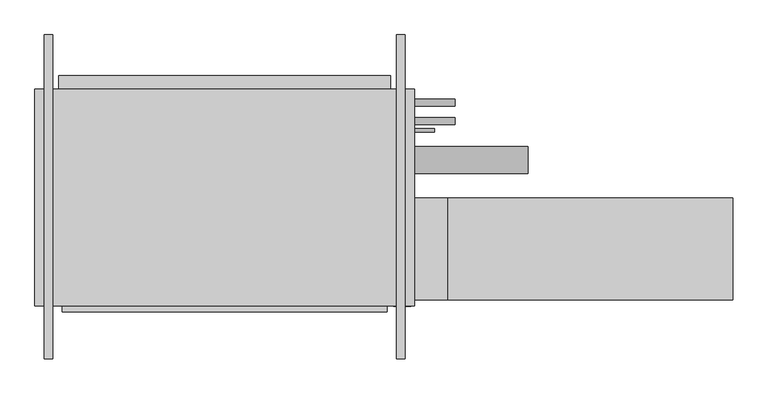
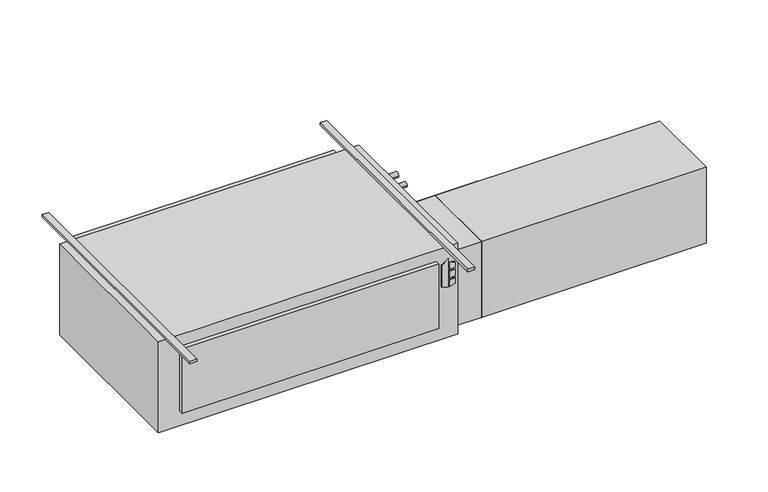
"""IFC4 building model written with IfcOpenShell, lengths in millimetres: proxy geometry."""

from ifc_helpers import new_model, si_unit, point, frame, frame_2d, origin, origin_with_axes, place, context, project, spatial, polyline, circle_curve, trimmed, segment, composite_curve, outline, extrude, source, transform, mapped, element, save


def mechanical_equipment_eba861e0(model_context):
    return source(origin(), model_context, "Body", "SweptSolid", [
        extrude(outline(polyline([(-193.2519297, 785.8868862), (-203.2, 818.0602728), (-61.0290756, 818.0602728), (-84.0510817, 785.8868862), (-193.2519297, 785.8868862)])), frame((0.0, -647.7, 0.0), z_axis=(0.0, 1.0, 0.0), x_axis=(0.0, 0.0, 1.0)), (0.0, 0.0, 1.0), 3.175),
        extrude(outline(polyline([(-114.2526443, 824.8186058), (-117.4550368, 850.9), (-88.2261958, 850.9), (-80.1617807, 824.8186058), (-114.2526443, 824.8186058)])), frame((0.0, -647.7, 0.0), z_axis=(0.0, 1.0, 0.0), x_axis=(0.0, 0.0, 1.0)), (0.0, 0.0, 1.0), 3.175),
        extrude(outline(polyline([(-166.1161712, 850.9), (-169.7816721, 824.8186058), (-203.2, 824.8186058), (-194.5657628, 850.9), (-166.1161712, 850.9)])), frame((0.0, -647.7, 0.0), z_axis=(0.0, 1.0, 0.0), x_axis=(0.0, 0.0, 1.0)), (0.0, 0.0, 1.0), 3.175),
        extrude(outline(polyline([(-126.8010097, 850.9), (-124.5191834, 824.8186058), (-160.4567319, 824.8186058), (-157.7154669, 850.9), (-126.8010097, 850.9)])), frame((0.0, -647.7, 0.0), z_axis=(0.0, 1.0, 0.0), x_axis=(0.0, 0.0, 1.0)), (0.0, 0.0, 1.0), 3.175),
        extrude(outline(polyline([(762.0, -666.877), (-457.2, -666.877), (-457.2, -644.525), (762.0, -644.525), (762.0, -666.877)])), frame((0.0, 0.0, -381.0), z_axis=(0.0, 0.0, 1.0), x_axis=(1.0, 0.0, 0.0)), (0.0, 0.0, 1.0), 323.85),
        extrude(outline(polyline([(2057.4, -241.3), (2057.4, -622.3), (990.6, -622.3), (990.6, -241.3), (2057.4, -241.3)])), frame((0.0, 0.0, -431.8), z_axis=(0.0, 0.0, 1.0), x_axis=(1.0, 0.0, 0.0)), (0.0, 0.0, 1.0), 381.0),
        extrude(outline(polyline([(990.6, -241.3), (990.6, -622.3), (863.6, -622.3), (863.6, -241.3), (990.6, -241.3)])), frame((0.0, 0.0, -431.8), z_axis=(0.0, 0.0, 1.0), x_axis=(1.0, 0.0, 0.0)), (0.0, 0.0, 1.0), 381.0),
        extrude(outline(composite_curve([segment(trimmed(circle_curve(frame_2d((117.475, -171.45)), 12.7), [point((130.175, -171.45))], [point((104.775, -171.45))], False, "CARTESIAN"), True, "CONTINUOUS"), segment(trimmed(circle_curve(frame_2d((117.475, -171.45)), 12.7), [point((104.775, -171.45))], [point((130.175, -171.45))], False, "CARTESIAN"), True, "CONTINUOUS")], self_intersect=False)), frame((863.6, 0.0, 0.0), z_axis=(1.0, 0.0, 0.0), x_axis=(0.0, 1.0, 0.0)), (0.0, 0.0, 1.0), 152.4),
        extrude(outline(composite_curve([segment(trimmed(circle_curve(frame_2d((47.625, -177.8)), 12.7), [point((60.325, -177.8))], [point((34.925, -177.8))], False, "CARTESIAN"), True, "CONTINUOUS"), segment(trimmed(circle_curve(frame_2d((47.625, -177.8)), 12.7), [point((34.925, -177.8))], [point((60.325, -177.8))], False, "CARTESIAN"), True, "CONTINUOUS")], self_intersect=False)), frame((863.6, 0.0, 0.0), z_axis=(1.0, 0.0, 0.0), x_axis=(0.0, 1.0, 0.0)), (0.0, 0.0, 1.0), 152.4),
        extrude(outline(composite_curve([segment(trimmed(circle_curve(frame_2d((-98.4896516, -228.6360165)), 50.8), [point((-47.6896516, -228.6360165))], [point((-149.2896516, -228.6360165))], False, "CARTESIAN"), True, "CONTINUOUS"), segment(trimmed(circle_curve(frame_2d((-98.4896516, -228.6360165)), 50.8), [point((-149.2896516, -228.6360165))], [point((-47.6896516, -228.6360165))], False, "CARTESIAN"), True, "CONTINUOUS")], self_intersect=False)), frame((863.6, 0.0, 0.0), z_axis=(1.0, 0.0, 0.0), x_axis=(0.0, 1.0, 0.0)), (0.0, 0.0, 1.0), 425.45),
        extrude(outline(composite_curve([segment(trimmed(circle_curve(frame_2d((12.7, -409.575)), 6.35), [point((19.05, -409.575))], [point((6.35, -409.575))], False, "CARTESIAN"), True, "CONTINUOUS"), segment(trimmed(circle_curve(frame_2d((12.7, -409.575)), 6.35), [point((6.35, -409.575))], [point((19.05, -409.575))], False, "CARTESIAN"), True, "CONTINUOUS")], self_intersect=False)), frame((863.6, 0.0, 0.0), z_axis=(1.0, 0.0, 0.0), x_axis=(0.0, 1.0, 0.0)), (0.0, 0.0, 1.0), 76.2),
        extrude(outline(polyline([(863.6, 168.275), (863.6, -644.525), (-558.8, -644.525), (-558.8, 168.275), (863.6, 168.275)])), frame((0.0, 0.0, -457.2), z_axis=(0.0, 0.0, 1.0), x_axis=(1.0, 0.0, 0.0)), (0.0, 0.0, 1.0), 457.2),
        extrude(outline(polyline([(-469.9, 219.075), (774.7, 219.075), (774.7, 168.275), (-469.9, 168.275), (-469.9, 219.075)])), frame((0.0, 0.0, -381.0), z_axis=(0.0, 0.0, 1.0), x_axis=(1.0, 0.0, 0.0)), (0.0, 0.0, 1.0), 355.6),
        extrude(outline(polyline([(-492.125, 371.475), (-492.125, -844.677), (-523.875, -844.677), (-523.875, 371.475), (-492.125, 371.475)])), origin_with_axes(), (0.0, 0.0, 1.0), 12.7),
        extrude(outline(polyline([(828.675, 371.475), (828.675, -844.677), (796.925, -844.677), (796.925, 371.475), (828.675, 371.475)])), origin_with_axes(), (0.0, 0.0, 1.0), 12.7),
    ])


if __name__ == "__main__":
    model = new_model("IFC4")
    model_context = context("Model", 3, world=origin())
    ifc_project = project(units=[si_unit("LENGTHUNIT", "METRE", prefix="MILLI")], contexts=[model_context])
    site = spatial("IfcSite", under=ifc_project)
    building = spatial("IfcBuilding", under=site)
    placement = place(None, origin())
    mechanical_equipment_shape = mechanical_equipment_eba861e0(model_context)
    element("IfcBuildingElementProxy", 1, Name="High_Capacity_Horizontal_Cabinet_Fan_Coil_Unit_-_HTY_-_IEC_-_2-Pipe_RH Side_2022 : Size 20 - 115v/60Hz/1Ph - 4/0 Coil - 4\" AirIn", ObjectType="High_Capacity_Horizontal_Cabinet_Fan_Coil_Unit_-_HTY_-_IEC_-_2-Pipe_RH Side_2022 : Size 20 - 115v/60Hz/1Ph - 4/0 Coil - 4\" AirIn", at=placement, inside=building, context=model_context, shape_type="MappedRepresentation", body=[
        mapped(mechanical_equipment_shape, transform((0.0, 0.0, 0.0), x_axis=(1.0, 0.0, 0.0), y_axis=(0.0, 1.0, 0.0), z_axis=(0.0, 0.0, 1.0))),
    ])
    save(model, "model.ifc")
